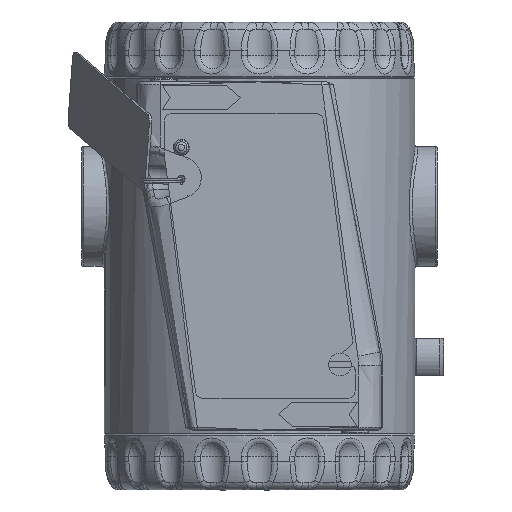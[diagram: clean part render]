
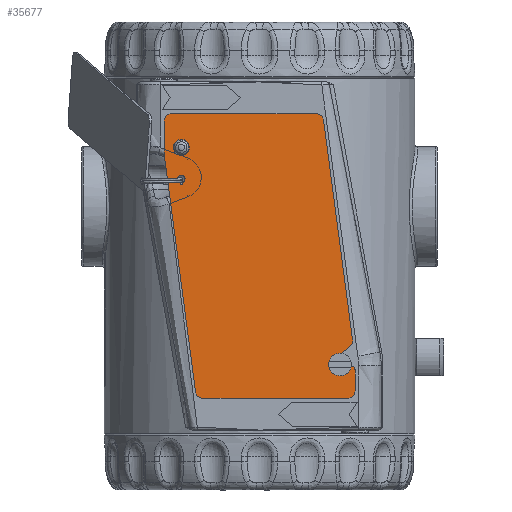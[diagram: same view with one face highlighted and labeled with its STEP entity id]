
A CAD part, left-side view. The second image highlights one B-rep face of the part: STEP entity #35677.
In plain terms, the highlighted planar face has unit normal (-1, 0, 0) as drawn and (0, 0, 1) by its records, which use the part's own axes.
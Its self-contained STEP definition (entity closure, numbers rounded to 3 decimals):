
#1103=PLANE('',#39815);
#1674=FACE_BOUND('',#9418,.T.);
#1675=FACE_BOUND('',#9419,.T.);
#2976=LINE('',#76676,#4576);
#2980=LINE('',#76688,#4580);
#2984=LINE('',#76700,#4584);
#2988=LINE('',#76712,#4588);
#2992=LINE('',#76724,#4592);
#2995=LINE('',#76730,#4595);
#2999=LINE('',#76742,#4599);
#3003=LINE('',#76753,#4603);
#4576=VECTOR('',#48284,10.);
#4580=VECTOR('',#48296,10.);
#4584=VECTOR('',#48308,10.);
#4588=VECTOR('',#48320,10.);
#4592=VECTOR('',#48332,10.);
#4595=VECTOR('',#48337,10.);
#4599=VECTOR('',#48349,10.);
#4603=VECTOR('',#48361,10.);
#7128=FACE_OUTER_BOUND('',#9417,.T.);
#9417=EDGE_LOOP('',(#30239,#30240,#30241,#30242,#30243,#30244,#30245,#30246,
#30247,#30248,#30249,#30250,#30251,#30252,#30253));
#9418=EDGE_LOOP('',(#30254));
#9419=EDGE_LOOP('',(#30255));
#11791=CIRCLE('',#39781,1.35);
#11793=CIRCLE('',#39784,1.);
#11794=CIRCLE('',#39786,2.);
#11796=CIRCLE('',#39790,2.);
#11798=CIRCLE('',#39794,1.);
#11800=CIRCLE('',#39798,2.);
#11802=CIRCLE('',#39802,2.);
#11804=CIRCLE('',#39807,2.);
#11806=CIRCLE('',#39811,2.);
#16135=VERTEX_POINT('',#76656);
#16137=VERTEX_POINT('',#76662);
#16138=VERTEX_POINT('',#76666);
#16139=VERTEX_POINT('',#76667);
#16142=VERTEX_POINT('',#76675);
#16144=VERTEX_POINT('',#76681);
#16146=VERTEX_POINT('',#76687);
#16148=VERTEX_POINT('',#76693);
#16150=VERTEX_POINT('',#76699);
#16152=VERTEX_POINT('',#76705);
#16154=VERTEX_POINT('',#76711);
#16156=VERTEX_POINT('',#76717);
#16158=VERTEX_POINT('',#76723);
#16160=VERTEX_POINT('',#76729);
#16162=VERTEX_POINT('',#76735);
#16164=VERTEX_POINT('',#76741);
#16166=VERTEX_POINT('',#76747);
#20959=EDGE_CURVE('',#16135,#16135,#11791,.T.);
#20962=EDGE_CURVE('',#16137,#16137,#11793,.T.);
#20963=EDGE_CURVE('',#16138,#16139,#11794,.T.);
#20967=EDGE_CURVE('',#16139,#16142,#2976,.T.);
#20970=EDGE_CURVE('',#16142,#16144,#11796,.T.);
#20973=EDGE_CURVE('',#16144,#16146,#2980,.T.);
#20976=EDGE_CURVE('',#16146,#16148,#11798,.T.);
#20979=EDGE_CURVE('',#16148,#16150,#2984,.T.);
#20982=EDGE_CURVE('',#16150,#16152,#11800,.T.);
#20985=EDGE_CURVE('',#16152,#16154,#2988,.T.);
#20988=EDGE_CURVE('',#16154,#16156,#11802,.T.);
#20991=EDGE_CURVE('',#16156,#16158,#2992,.T.);
#20994=EDGE_CURVE('',#16158,#16160,#2995,.T.);
#20997=EDGE_CURVE('',#16160,#16162,#11804,.T.);
#21000=EDGE_CURVE('',#16162,#16164,#2999,.T.);
#21003=EDGE_CURVE('',#16164,#16166,#11806,.T.);
#21006=EDGE_CURVE('',#16166,#16138,#3003,.T.);
#30239=ORIENTED_EDGE('',*,*,#20963,.F.);
#30240=ORIENTED_EDGE('',*,*,#21006,.F.);
#30241=ORIENTED_EDGE('',*,*,#21003,.F.);
#30242=ORIENTED_EDGE('',*,*,#21000,.F.);
#30243=ORIENTED_EDGE('',*,*,#20997,.F.);
#30244=ORIENTED_EDGE('',*,*,#20994,.F.);
#30245=ORIENTED_EDGE('',*,*,#20991,.F.);
#30246=ORIENTED_EDGE('',*,*,#20988,.F.);
#30247=ORIENTED_EDGE('',*,*,#20985,.F.);
#30248=ORIENTED_EDGE('',*,*,#20982,.F.);
#30249=ORIENTED_EDGE('',*,*,#20979,.F.);
#30250=ORIENTED_EDGE('',*,*,#20976,.F.);
#30251=ORIENTED_EDGE('',*,*,#20973,.F.);
#30252=ORIENTED_EDGE('',*,*,#20970,.F.);
#30253=ORIENTED_EDGE('',*,*,#20967,.F.);
#30254=ORIENTED_EDGE('',*,*,#20959,.T.);
#30255=ORIENTED_EDGE('',*,*,#20962,.T.);
#35677=ADVANCED_FACE('',(#7128,#1674,#1675),#1103,.T.);
#39781=AXIS2_PLACEMENT_3D('',#76658,#48265,#48266);
#39784=AXIS2_PLACEMENT_3D('',#76664,#48272,#48273);
#39786=AXIS2_PLACEMENT_3D('',#76668,#48276,#48277);
#39790=AXIS2_PLACEMENT_3D('',#76682,#48289,#48290);
#39794=AXIS2_PLACEMENT_3D('',#76694,#48301,#48302);
#39798=AXIS2_PLACEMENT_3D('',#76706,#48313,#48314);
#39802=AXIS2_PLACEMENT_3D('',#76718,#48325,#48326);
#39807=AXIS2_PLACEMENT_3D('',#76736,#48342,#48343);
#39811=AXIS2_PLACEMENT_3D('',#76748,#48354,#48355);
#39815=AXIS2_PLACEMENT_3D('',#76756,#48365,#48366);
#48265=DIRECTION('center_axis',(0.,0.,-1.));
#48266=DIRECTION('ref_axis',(-1.,0.,0.));
#48272=DIRECTION('center_axis',(0.,0.,-1.));
#48273=DIRECTION('ref_axis',(-1.,0.,0.));
#48276=DIRECTION('center_axis',(0.,0.,-1.));
#48277=DIRECTION('ref_axis',(0.766,0.643,0.));
#48284=DIRECTION('',(0.643,-0.766,0.));
#48289=DIRECTION('center_axis',(0.,0.,1.));
#48290=DIRECTION('ref_axis',(0.766,0.643,0.));
#48296=DIRECTION('',(-0.643,0.766,0.));
#48301=DIRECTION('center_axis',(0.,0.,-1.));
#48302=DIRECTION('ref_axis',(0.,1.,0.));
#48308=DIRECTION('',(1.,0.,0.));
#48313=DIRECTION('center_axis',(0.,0.,-1.));
#48314=DIRECTION('ref_axis',(1.,0.,0.));
#48320=DIRECTION('',(0.,-1.,0.));
#48325=DIRECTION('center_axis',(0.,0.,-1.));
#48326=DIRECTION('ref_axis',(0.131,-0.991,0.));
#48332=DIRECTION('',(-0.991,-0.131,0.));
#48337=DIRECTION('',(-1.,0.,0.));
#48342=DIRECTION('center_axis',(0.,0.,-1.));
#48343=DIRECTION('ref_axis',(-1.,0.,0.));
#48349=DIRECTION('',(0.,1.,0.));
#48354=DIRECTION('center_axis',(0.,0.,-1.));
#48355=DIRECTION('ref_axis',(-0.131,0.991,0.));
#48361=DIRECTION('',(0.991,0.131,0.));
#48365=DIRECTION('center_axis',(0.,0.,1.));
#48366=DIRECTION('ref_axis',(1.,0.,0.));
#76656=CARTESIAN_POINT('',(10.35,4.599,0.7));
#76658=CARTESIAN_POINT('Origin',(9.,4.599,0.7));
#76662=CARTESIAN_POINT('',(18.4,4.599,0.7));
#76664=CARTESIAN_POINT('Origin',(17.4,4.599,0.7));
#76666=CARTESIAN_POINT('',(60.389,50.327,0.7));
#76667=CARTESIAN_POINT('',(62.182,49.63,0.7));
#76668=CARTESIAN_POINT('Origin',(60.65,48.344,0.7));
#76675=CARTESIAN_POINT('',(65.468,45.714,0.7));
#76676=CARTESIAN_POINT('',(65.468,45.714,0.7));
#76681=CARTESIAN_POINT('',(68.532,48.286,0.7));
#76682=CARTESIAN_POINT('Origin',(67.,47.,0.7));
#76687=CARTESIAN_POINT('',(67.633,49.357,0.7));
#76688=CARTESIAN_POINT('',(67.633,49.357,0.7));
#76693=CARTESIAN_POINT('',(68.399,51.,0.7));
#76694=CARTESIAN_POINT('Origin',(68.399,50.,0.7));
#76699=CARTESIAN_POINT('',(74.,51.,0.7));
#76700=CARTESIAN_POINT('',(74.,51.,0.7));
#76705=CARTESIAN_POINT('',(76.,49.,0.7));
#76706=CARTESIAN_POINT('Origin',(74.,49.,0.7));
#76711=CARTESIAN_POINT('',(76.,10.377,0.7));
#76712=CARTESIAN_POINT('',(76.,10.377,0.7));
#76717=CARTESIAN_POINT('',(74.261,8.394,0.7));
#76718=CARTESIAN_POINT('Origin',(74.,10.377,0.7));
#76723=CARTESIAN_POINT('',(10.5,0.,0.7));
#76724=CARTESIAN_POINT('',(10.5,0.,0.7));
#76729=CARTESIAN_POINT('',(2.,0.,0.7));
#76730=CARTESIAN_POINT('',(2.,0.,0.7));
#76735=CARTESIAN_POINT('',(0.,2.,0.7));
#76736=CARTESIAN_POINT('Origin',(2.,2.,0.7));
#76741=CARTESIAN_POINT('',(0.,40.623,0.7));
#76742=CARTESIAN_POINT('',(0.,40.623,0.7));
#76747=CARTESIAN_POINT('',(1.739,42.606,0.7));
#76748=CARTESIAN_POINT('Origin',(2.,40.623,0.7));
#76753=CARTESIAN_POINT('',(60.389,50.327,0.7));
#76756=CARTESIAN_POINT('Origin',(39.077,26.228,0.7));
